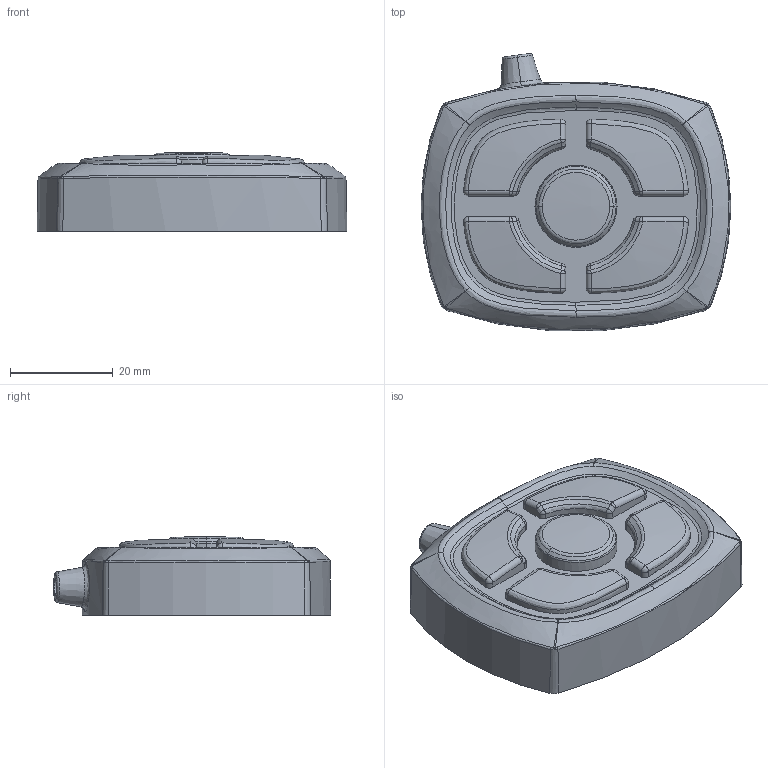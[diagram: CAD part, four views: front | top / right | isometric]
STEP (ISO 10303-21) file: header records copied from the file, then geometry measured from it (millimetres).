
FILE_DESCRIPTION((''),'2;1');
FILE_NAME('MASTER5_ASM_ASM','2021-04-15T09:21:49',('Administrator'),(''),'CREO PARAMETRIC BY PTC INC, 2020154','CREO PARAMETRIC BY PTC INC, 2020154','');
FILE_SCHEMA(('CONFIG_CONTROL_DESIGN'));
Length unit declared in the file: millimetre
Products named in the file (6): MASTER5-S1_11; MASTER5-M1_4; MASTER5-S2_3; ZHIJIA_ASM_2_ASM; MASTER5_ASM_11_ASM; MASTER5_ASM_ASM
Assembly tree (5 placements, depth 3):
  MASTER5_ASM_ASM
    MASTER5_ASM_11_ASM
      MASTER5-S1_11
      MASTER5-M1_4
      MASTER5-S2_3
      ZHIJIA_ASM_2_ASM
Bounding box: 60.35 x 53.97 x 15.37 mm (x, y, z)
Volume: 3091.6 mm3; surface area: 20149.2 mm2
Topology: 2 solids, 3 shells, 385 faces, 996 edges, 608 vertices
Faces by surface type: cylinder 123, bspline 79, plane 63, cone 38, sphere 36, torus 26, extrusion 20
Entity records: 20260 total; most frequent: CARTESIAN_POINT 11208, ORIENTED_EDGE 1930, DIRECTION 1822, EDGE_CURVE 965, AXIS2_PLACEMENT_3D 743, VERTEX_POINT 608, CIRCLE 442, EDGE_LOOP 411
